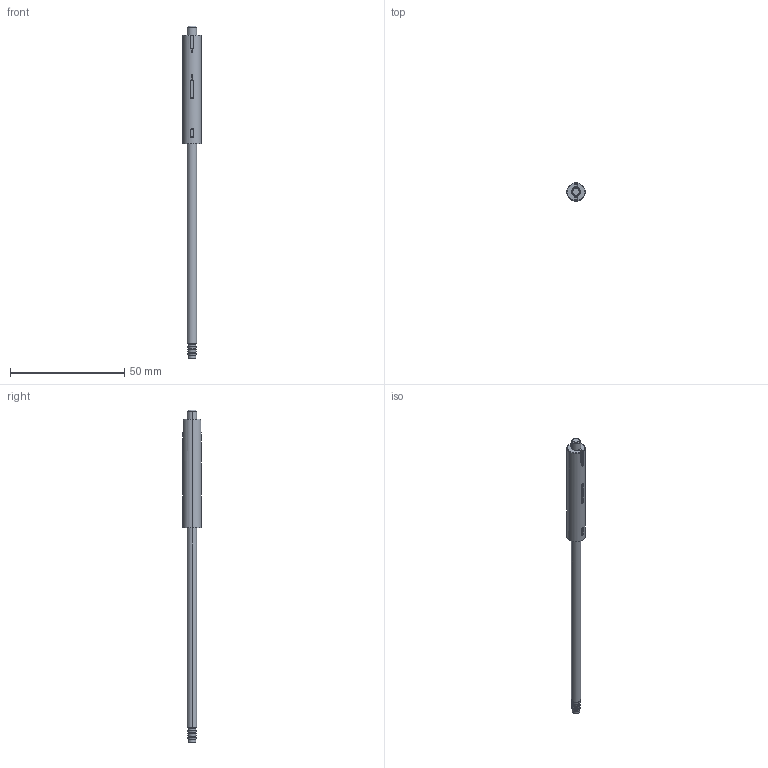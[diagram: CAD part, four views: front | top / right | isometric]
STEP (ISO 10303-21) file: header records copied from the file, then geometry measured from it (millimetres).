
FILE_DESCRIPTION(('CATIA V5 STEP Exchange'),'2;1');
FILE_NAME('C:\Users\Administrator\Desktop\阀杆原来的状态.stp','2020-12-30T09:12:49+00:00',('none'),('none'),'CATIA Version 5 Release 20 GA (IN-10)','CATIA V5 STEP AP214','none');
FILE_SCHEMA(('AUTOMOTIVE_DESIGN { 1 0 10303 214 1 1 1 1 }'));
Length unit declared in the file: millimetre
Products named in the file (1): BPC0010083
Bounding box: 8 x 8 x 145 mm (x, y, z)
Volume: 3505.6 mm3; surface area: 3779.7 mm2
Topology: 2 solids, 2 shells, 165 faces, 389 edges, 227 vertices
Faces by surface type: cylinder 70, plane 40, bspline 26, sphere 12, cone 12, torus 5
Entity records: 5430 total; most frequent: CARTESIAN_POINT 2087, ORIENTED_EDGE 754, DIRECTION 511, EDGE_CURVE 377, AXIS2_PLACEMENT_3D 247, VERTEX_POINT 227, EDGE_LOOP 178, ADVANCED_FACE 165
